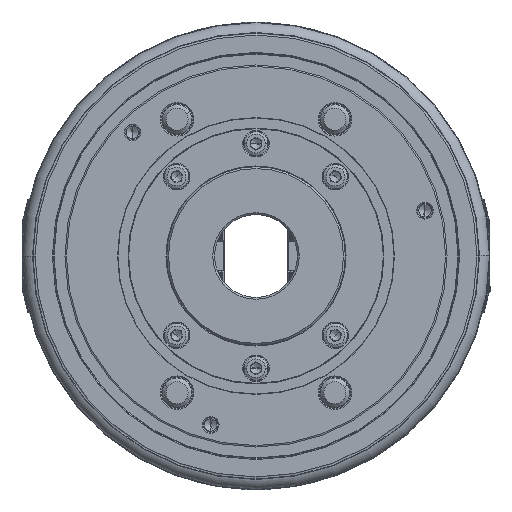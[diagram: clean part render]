
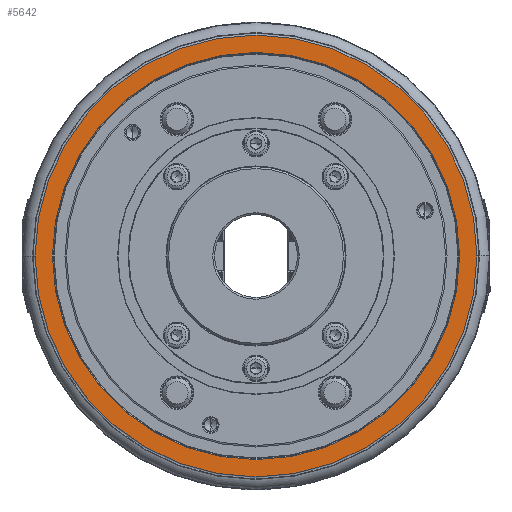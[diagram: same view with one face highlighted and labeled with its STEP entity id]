
A CAD part, left-side view. The second image highlights one B-rep face of the part: STEP entity #5642.
In plain terms, the highlighted planar face has unit normal (-1, 0, 0).
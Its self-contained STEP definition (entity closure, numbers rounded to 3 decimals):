
#3909 = ORIENTED_EDGE ( 'NONE', *, *, #19420, .T. ) ;
#5642 = ADVANCED_FACE ( 'NONE', ( #77155, #65405 ), #33530, .T. ) ;
#7884 = DIRECTION ( 'NONE',  ( 0., 0., -1. ) ) ;
#9066 = CARTESIAN_POINT ( 'NONE',  ( -100., 0., 0. ) ) ;
#13874 = DIRECTION ( 'NONE',  ( -1., 0., 0. ) ) ;
#14605 = CARTESIAN_POINT ( 'NONE',  ( -100., 0., 0. ) ) ;
#15305 = EDGE_CURVE ( 'NONE', #66114, #64357, #62968, .T. ) ;
#19274 = VERTEX_POINT ( 'NONE', #51054 ) ;
#19420 = EDGE_CURVE ( 'NONE', #19274, #40577, #47444, .T. ) ;
#27068 = CARTESIAN_POINT ( 'NONE',  ( -100., 0., 0. ) ) ;
#27252 = CARTESIAN_POINT ( 'NONE',  ( -100., 0., -110.6 ) ) ;
#27916 = DIRECTION ( 'NONE',  ( 1., 0., 0. ) ) ;
#28464 = EDGE_CURVE ( 'NONE', #64357, #66114, #76130, .T. ) ;
#28568 = CARTESIAN_POINT ( 'NONE',  ( -100., 0., -110.6 ) ) ;
#28903 = EDGE_LOOP ( 'NONE', ( #76097, #32982 ) ) ;
#32982 = ORIENTED_EDGE ( 'NONE', *, *, #28464, .F. ) ;
#33530 = PLANE ( 'NONE',  #60997 ) ;
#33770 = DIRECTION ( 'NONE',  ( 1., 0., 0. ) ) ;
#34195 = DIRECTION ( 'NONE',  ( 0., 0., -1. ) ) ;
#34992 = CIRCLE ( 'NONE', #69811, 110.6 ) ;
#39429 = DIRECTION ( 'NONE',  ( 0., 0., 1. ) ) ;
#40233 = AXIS2_PLACEMENT_3D ( 'NONE', #9066, #33770, #59341 ) ;
#40577 = VERTEX_POINT ( 'NONE', #28568 ) ;
#45082 = EDGE_CURVE ( 'NONE', #40577, #19274, #34992, .T. ) ;
#47444 = CIRCLE ( 'NONE', #74175, 110.6 ) ;
#51054 = CARTESIAN_POINT ( 'NONE',  ( -100., 0., 110.6 ) ) ;
#51158 = EDGE_LOOP ( 'NONE', ( #3909, #68392 ) ) ;
#53388 = AXIS2_PLACEMENT_3D ( 'NONE', #56975, #82950, #71192 ) ;
#56975 = CARTESIAN_POINT ( 'NONE',  ( -100., 0., 0. ) ) ;
#59341 = DIRECTION ( 'NONE',  ( 0., 1., 0. ) ) ;
#60997 = AXIS2_PLACEMENT_3D ( 'NONE', #27252, #13874, #39429 ) ;
#62968 = CIRCLE ( 'NONE', #40233, 120. ) ;
#64357 = VERTEX_POINT ( 'NONE', #71004 ) ;
#65305 = DIRECTION ( 'NONE',  ( 1., 0., 0. ) ) ;
#65405 = FACE_BOUND ( 'NONE', #51158, .T. ) ;
#66114 = VERTEX_POINT ( 'NONE', #78873 ) ;
#68392 = ORIENTED_EDGE ( 'NONE', *, *, #45082, .T. ) ;
#69811 = AXIS2_PLACEMENT_3D ( 'NONE', #27068, #27916, #34195 ) ;
#71004 = CARTESIAN_POINT ( 'NONE',  ( -100., -120., 0. ) ) ;
#71192 = DIRECTION ( 'NONE',  ( 0., 1., 0. ) ) ;
#74175 = AXIS2_PLACEMENT_3D ( 'NONE', #14605, #65305, #7884 ) ;
#76097 = ORIENTED_EDGE ( 'NONE', *, *, #15305, .F. ) ;
#76130 = CIRCLE ( 'NONE', #53388, 120. ) ;
#77155 = FACE_OUTER_BOUND ( 'NONE', #28903, .T. ) ;
#78873 = CARTESIAN_POINT ( 'NONE',  ( -100., 120., 0. ) ) ;
#82950 = DIRECTION ( 'NONE',  ( 1., 0., 0. ) ) ;
